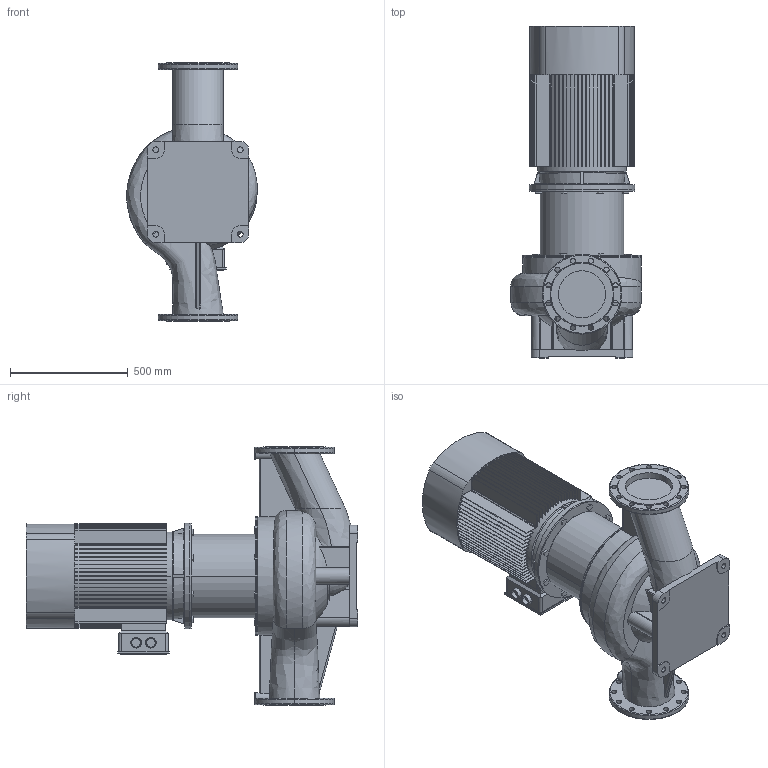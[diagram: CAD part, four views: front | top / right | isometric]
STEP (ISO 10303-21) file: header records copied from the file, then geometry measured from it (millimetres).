
FILE_DESCRIPTION (( 'STEP AP203' ), '1' );
FILE_NAME ('TD200-36_4.STEP', '2022-05-02T17:37:47', ( '' ), ( '' ), 'SwSTEP 2.0', 'SolidWorks 2019', '' );
FILE_SCHEMA (( 'CONFIG_CONTROL_DESIGN' ));
Length unit declared in the file: millimetre
Products named in the file (4): Pr_ch 200_TD200-36_4; TD200-36_4; Fon_200_TD200-36_4; ED_B5_YE2-225M-4 (45)
Assembly tree (3 placements, depth 2):
  TD200-36_4
    Pr_ch 200_TD200-36_4
    Fon_200_TD200-36_4
    ED_B5_YE2-225M-4 (45)
Bounding box: 555.99 x 1412 x 1100 mm (x, y, z)
Volume: 198803160.1 mm3; surface area: 6691399.5 mm2
Topology: 5 solids, 7 shells, 816 faces, 2248 edges, 1492 vertices
Faces by surface type: plane 555, cylinder 189, torus 33, bspline 22, cone 17
Entity records: 35148 total; most frequent: CARTESIAN_POINT 13447, ORIENTED_EDGE 4496, DIRECTION 4418, EDGE_CURVE 2248, AXIS2_PLACEMENT_3D 1517, VERTEX_POINT 1492, LINE 1384, VECTOR 1384
